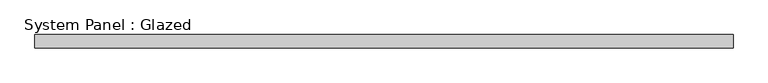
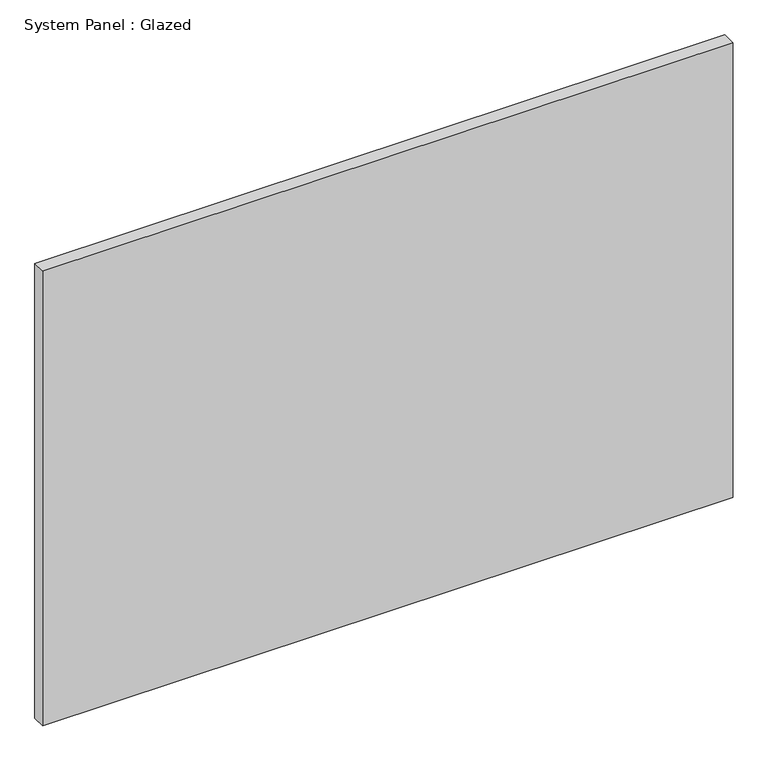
"""IFC4 building model written with IfcOpenShell, lengths in millimetres: plate geometry, System Panel : Glazed."""

from ifc_helpers import new_model, si_unit, origin, origin_with_axes, place, context, project, spatial, polyline, outline, extrude, source, transform, mapped, element, save


def system_panel_glazed_2c8787eb(model_context):
    return source(origin(), model_context, "Body", "SweptSolid", [
        extrude(outline(polyline([(656.062298, 19.05), (-656.062298, 19.05), (-656.062298, 44.45), (656.062298, 44.45), (656.062298, 19.05)])), origin_with_axes(), (0.0, 0.0, 1.0), 914.4),
    ])


if __name__ == "__main__":
    model = new_model("IFC4")
    model_context = context("Model", 3, world=origin())
    ifc_project = project(units=[si_unit("LENGTHUNIT", "METRE", prefix="MILLI")], contexts=[model_context])
    site = spatial("IfcSite", under=ifc_project)
    building = spatial("IfcBuilding", under=site)
    placement = place(None, origin())
    system_panel_glazed_shape = system_panel_glazed_2c8787eb(model_context)
    element("IfcPlate", 1, ObjectType="System Panel : Glazed", at=placement, inside=building, context=model_context, shape_type="MappedRepresentation", body=[
        mapped(system_panel_glazed_shape, transform((0.0, 0.0, 0.0), x_axis=(1.0, 0.0, 0.0), y_axis=(0.0, 1.0, 0.0), z_axis=(0.0, 0.0, 1.0))),
    ])
    save(model, "model.ifc")
